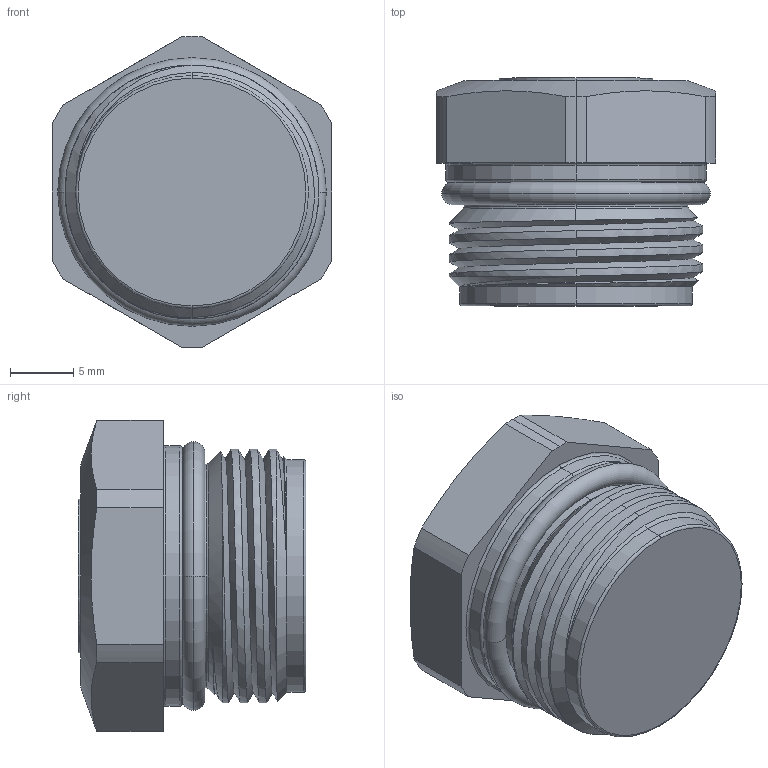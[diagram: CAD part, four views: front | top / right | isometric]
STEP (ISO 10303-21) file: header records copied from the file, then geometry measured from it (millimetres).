
FILE_DESCRIPTION (( 'STEP AP214' ), '1' );
FILE_NAME ('WXLS-FLS-20L.STEP', '2019-07-04T03:02:45', ( 'PC' ), ( 'Microsoft' ), 'SwSTEP 2.0', 'SolidWorks 2018', '' );
FILE_SCHEMA (( 'AUTOMOTIVE_DESIGN' ));
Length unit declared in the file: millimetre
Products named in the file (1): WXLS-FLS-20L
Bounding box: 22 x 17.94 x 24.5 mm (x, y, z)
Volume: 5973.3 mm3; surface area: 2517 mm2
Topology: 2 solids, 2 shells, 64 faces, 149 edges, 92 vertices
Faces by surface type: cylinder 24, torus 14, plane 13, cone 11, bspline 2
Entity records: 3298 total; most frequent: CARTESIAN_POINT 1102, DIRECTION 320, ORIENTED_EDGE 298, EDGE_CURVE 149, AXIS2_PLACEMENT_3D 137, VERTEX_POINT 92, CIRCLE 74, EDGE_LOOP 69
